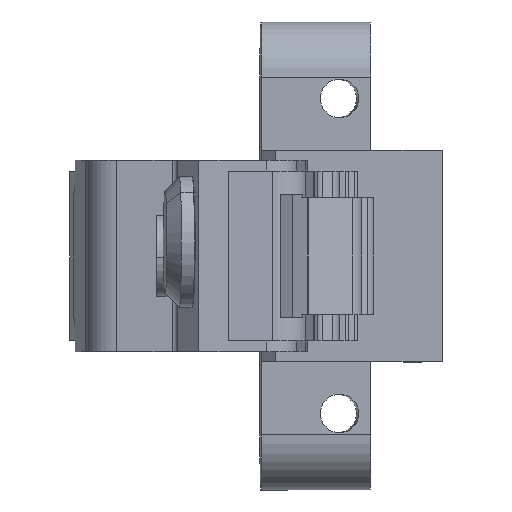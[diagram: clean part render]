
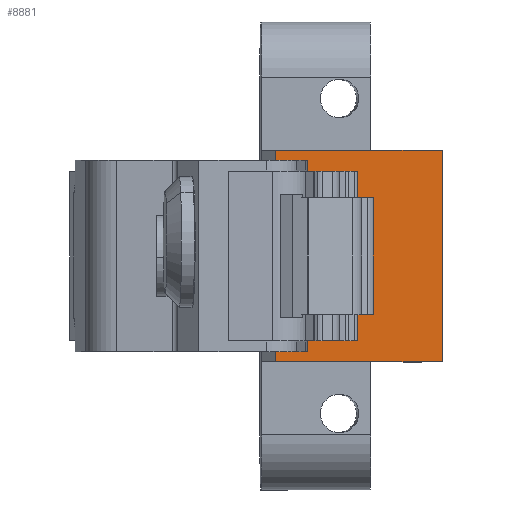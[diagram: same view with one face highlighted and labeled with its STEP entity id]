
A CAD part, left-side view. The second image highlights one B-rep face of the part: STEP entity #8881.
In plain terms, the highlighted planar face has unit normal (-1, -0.019, 0).
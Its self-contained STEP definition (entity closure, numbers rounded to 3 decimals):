
#252 = DIRECTION ( 'NONE',  ( 0.019, -1., 0. ) ) ;
#468 = AXIS2_PLACEMENT_3D ( 'NONE', #7623, #9507, #11120 ) ;
#582 = EDGE_CURVE ( 'NONE', #7863, #9331, #5890, .T. ) ;
#978 = LINE ( 'NONE', #8900, #1267 ) ;
#1219 = VECTOR ( 'NONE', #5146, 1000. ) ;
#1227 = LINE ( 'NONE', #1982, #10817 ) ;
#1267 = VECTOR ( 'NONE', #4479, 1000. ) ;
#1982 = CARTESIAN_POINT ( 'NONE',  ( -4.156, -5.304, 9.4 ) ) ;
#2039 = VERTEX_POINT ( 'NONE', #4134 ) ;
#2972 = EDGE_LOOP ( 'NONE', ( #10509, #5670, #6372, #8536 ) ) ;
#3204 = PLANE ( 'NONE',  #468 ) ;
#3247 = EDGE_CURVE ( 'NONE', #2039, #9331, #978, .T. ) ;
#3706 = VECTOR ( 'NONE', #11221, 1000. ) ;
#3995 = CARTESIAN_POINT ( 'NONE',  ( -4.134, -6.504, 9.4 ) ) ;
#4054 = EDGE_CURVE ( 'NONE', #7863, #10359, #1227, .T. ) ;
#4134 = CARTESIAN_POINT ( 'NONE',  ( -3.859, -21.301, -9.4 ) ) ;
#4479 = DIRECTION ( 'NONE',  ( -0.019, 1., 0. ) ) ;
#4699 = CARTESIAN_POINT ( 'NONE',  ( -4.134, -6.504, -9.4 ) ) ;
#5146 = DIRECTION ( 'NONE',  ( 0., 0., -1. ) ) ;
#5670 = ORIENTED_EDGE ( 'NONE', *, *, #3247, .F. ) ;
#5890 = LINE ( 'NONE', #3995, #3706 ) ;
#6229 = LINE ( 'NONE', #7033, #1219 ) ;
#6372 = ORIENTED_EDGE ( 'NONE', *, *, #9996, .F. ) ;
#7033 = CARTESIAN_POINT ( 'NONE',  ( -3.859, -21.301, 9.4 ) ) ;
#7597 = CARTESIAN_POINT ( 'NONE',  ( -4.134, -6.504, 9.4 ) ) ;
#7623 = CARTESIAN_POINT ( 'NONE',  ( -3.859, -21.301, 9.4 ) ) ;
#7863 = VERTEX_POINT ( 'NONE', #7597 ) ;
#8536 = ORIENTED_EDGE ( 'NONE', *, *, #4054, .F. ) ;
#8881 = ADVANCED_FACE ( 'NONE', ( #9338 ), #3204, .F. ) ;
#8900 = CARTESIAN_POINT ( 'NONE',  ( -4.156, -5.304, -9.4 ) ) ;
#9331 = VERTEX_POINT ( 'NONE', #4699 ) ;
#9338 = FACE_OUTER_BOUND ( 'NONE', #2972, .T. ) ;
#9507 = DIRECTION ( 'NONE',  ( 1., 0.019, 0. ) ) ;
#9996 = EDGE_CURVE ( 'NONE', #10359, #2039, #6229, .T. ) ;
#10359 = VERTEX_POINT ( 'NONE', #10460 ) ;
#10460 = CARTESIAN_POINT ( 'NONE',  ( -3.859, -21.301, 9.4 ) ) ;
#10509 = ORIENTED_EDGE ( 'NONE', *, *, #582, .T. ) ;
#10817 = VECTOR ( 'NONE', #252, 1000. ) ;
#11120 = DIRECTION ( 'NONE',  ( 0., 0., -1. ) ) ;
#11221 = DIRECTION ( 'NONE',  ( 0., 0., -1. ) ) ;
